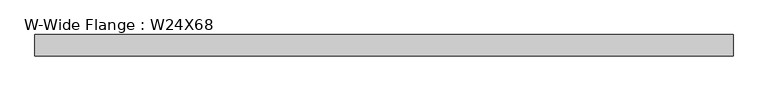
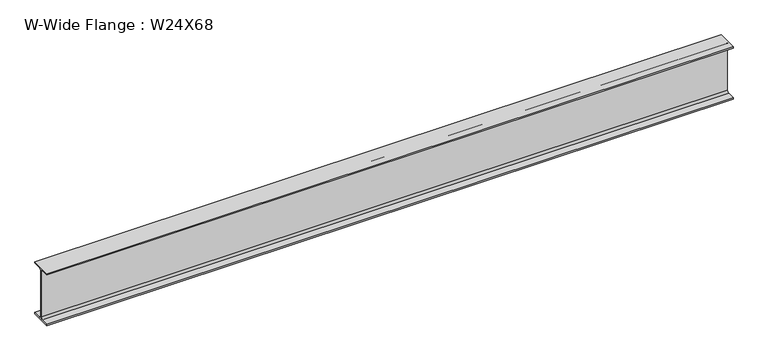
"""IFC4 building model written with IfcOpenShell, lengths in millimetres: beam geometry, W-Wide Flange : W24X68."""

from ifc_helpers import new_model, si_unit, point, frame, frame_2d, origin, place, context, project, spatial, polyline, circle_curve, trimmed, segment, composite_curve, outline, extrude, source, transform, mapped, element, save


def w_wide_flange_w24x68_a3e40812(model_context):
    return source(origin(), model_context, "Body", "SweptSolid", [
        extrude(outline(composite_curve([segment(polyline([(113.919, -286.131), (113.919, -300.99), (-113.919, -300.99), (-113.919, -286.131), (-28.5115, -286.131)]), True, "CONTINUOUS"), segment(trimmed(circle_curve(frame_2d((-28.5115, -262.89)), 23.241), [point((-28.5115, -286.131))], [point((-5.2705, -262.89))], True, "CARTESIAN"), True, "CONTINUOUS"), segment(polyline([(-5.2705, -262.89), (-5.2705, 262.89)]), True, "CONTINUOUS"), segment(trimmed(circle_curve(frame_2d((-28.5115, 262.89)), 23.241), [point((-5.2705, 262.89))], [point((-28.5115, 286.131))], True, "CARTESIAN"), True, "CONTINUOUS"), segment(polyline([(-28.5115, 286.131), (-113.919, 286.131), (-113.919, 300.99), (113.919, 300.99), (113.919, 286.131), (28.5115, 286.131)]), True, "CONTINUOUS"), segment(trimmed(circle_curve(frame_2d((28.5115, 262.89)), 23.241), [point((28.5115, 286.131))], [point((5.2705, 262.89))], True, "CARTESIAN"), True, "CONTINUOUS"), segment(polyline([(5.2705, 262.89), (5.2705, -262.89)]), True, "CONTINUOUS"), segment(trimmed(circle_curve(frame_2d((28.5115, -262.89)), 23.241), [point((5.2705, -262.89))], [point((28.5115, -286.131))], True, "CARTESIAN"), True, "CONTINUOUS"), segment(polyline([(28.5115, -286.131), (113.919, -286.131)]), True, "CONTINUOUS")], self_intersect=False)), frame((-3747.1098174, 0.0, 0.0), z_axis=(1.0, 0.0, 0.0), x_axis=(0.0, 1.0, 0.0)), (0.0, 0.0, 1.0), 7494.0926348),
    ])


if __name__ == "__main__":
    model = new_model("IFC4")
    model_context = context("Model", 3, world=origin())
    ifc_project = project(units=[si_unit("LENGTHUNIT", "METRE", prefix="MILLI")], contexts=[model_context])
    site = spatial("IfcSite", under=ifc_project)
    building = spatial("IfcBuilding", under=site)
    placement = place(None, origin())
    w_wide_flange_w24x68_shape = w_wide_flange_w24x68_a3e40812(model_context)
    element("IfcBeam", 1, ObjectType="W-Wide Flange : W24X68", at=placement, inside=building, context=model_context, shape_type="MappedRepresentation", body=[
        mapped(w_wide_flange_w24x68_shape, transform((0.0, 0.0, 0.0), x_axis=(1.0, 0.0, 0.0), y_axis=(0.0, 1.0, 0.0), z_axis=(0.0, 0.0, 1.0))),
    ])
    save(model, "model.ifc")
